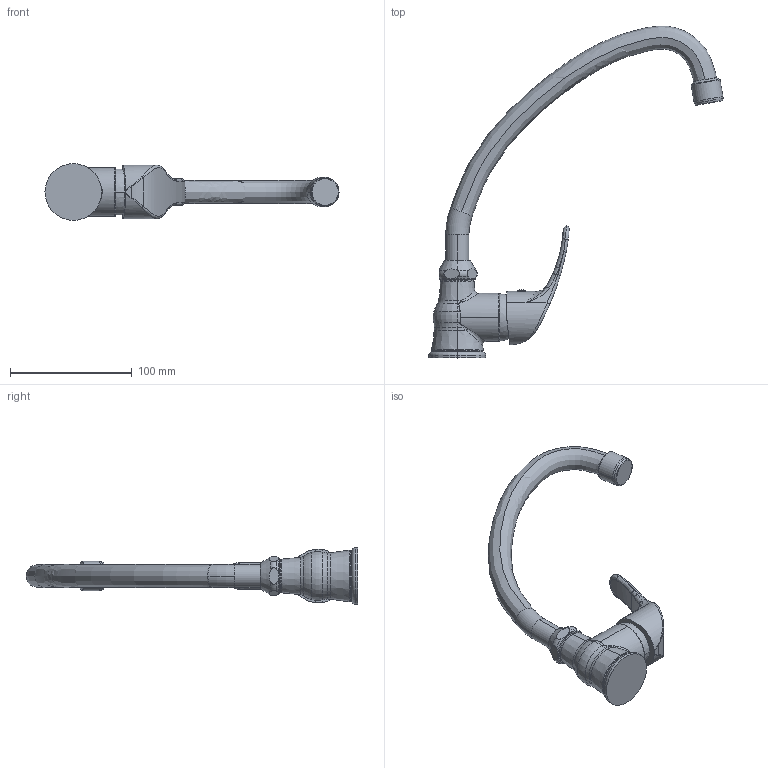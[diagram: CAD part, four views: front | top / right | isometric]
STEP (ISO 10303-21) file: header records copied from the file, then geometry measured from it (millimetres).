
FILE_DESCRIPTION (( 'STEP AP203' ), '1' );
FILE_NAME ('Paini Jolly 69CR592ZLMKM.STEP', '2020-03-01T21:22:52', ( '' ), ( '' ), 'SwSTEP 2.0', 'SolidWorks 2019', '' );
FILE_SCHEMA (( 'CONFIG_CONTROL_DESIGN' ));
Length unit declared in the file: millimetre
Products named in the file (1): Paini Jolly 69CR592ZLMKM
Bounding box: 241.54 x 272.62 x 46.61 mm (x, y, z)
Volume: 261639.3 mm3; surface area: 43416.6 mm2
Topology: 1 solids, 1 shells, 153 faces, 375 edges, 221 vertices
Faces by surface type: bspline 47, torus 42, cylinder 27, cone 18, plane 17, sphere 2
Entity records: 8955 total; most frequent: CARTESIAN_POINT 5661, ORIENTED_EDGE 738, DIRECTION 618, EDGE_CURVE 369, AXIS2_PLACEMENT_3D 284, VERTEX_POINT 221, CIRCLE 177, EDGE_LOOP 156
